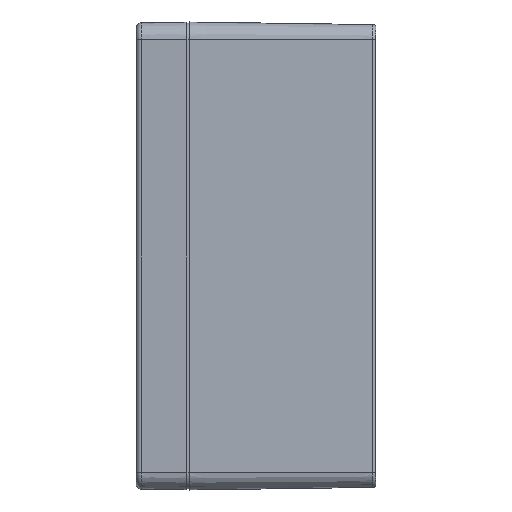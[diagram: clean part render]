
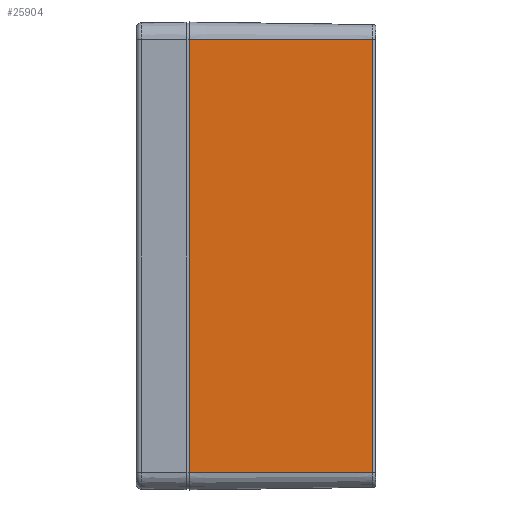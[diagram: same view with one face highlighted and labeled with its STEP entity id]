
A CAD part, left-side view. The second image highlights one B-rep face of the part: STEP entity #25904.
In plain terms, the highlighted planar face has unit normal (-1, -0.014, 0).
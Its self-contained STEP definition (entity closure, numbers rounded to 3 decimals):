
#1692 = DIRECTION ( 'NONE',  ( -0.014, 1., 0. ) ) ;
#4899 = CARTESIAN_POINT ( 'NONE',  ( -131.474, -73.467, 85.5 ) ) ;
#6523 = ORIENTED_EDGE ( 'NONE', *, *, #25195, .T. ) ;
#12423 = CARTESIAN_POINT ( 'NONE',  ( -132.5, 0., 85.5 ) ) ;
#13148 = CARTESIAN_POINT ( 'NONE',  ( -132.5, 0., -85.5 ) ) ;
#15148 = VECTOR ( 'NONE', #1692, 1000. ) ;
#16372 = LINE ( 'NONE', #26067, #15148 ) ;
#19604 = LINE ( 'NONE', #4899, #34631 ) ;
#20899 = CARTESIAN_POINT ( 'NONE',  ( -131.474, -73.467, -85.5 ) ) ;
#25195 = EDGE_CURVE ( 'NONE', #30143, #25568, #51648, .T. ) ;
#25568 = VERTEX_POINT ( 'NONE', #55354 ) ;
#25774 = CARTESIAN_POINT ( 'NONE',  ( -131.474, -73.467, 85.5 ) ) ;
#25904 = ADVANCED_FACE ( 'NONE', ( #36191 ), #55277, .T. ) ;
#26067 = CARTESIAN_POINT ( 'NONE',  ( -132.5, 0., 85.5 ) ) ;
#28037 = AXIS2_PLACEMENT_3D ( 'NONE', #12423, #31522, #36505 ) ;
#28894 = VECTOR ( 'NONE', #61319, 1000. ) ;
#28979 = DIRECTION ( 'NONE',  ( 0., 0., 1. ) ) ;
#30143 = VERTEX_POINT ( 'NONE', #50938 ) ;
#30705 = VERTEX_POINT ( 'NONE', #25774 ) ;
#30944 = EDGE_LOOP ( 'NONE', ( #49981, #6523, #45656, #46376 ) ) ;
#31127 = VECTOR ( 'NONE', #42285, 1000. ) ;
#31522 = DIRECTION ( 'NONE',  ( -1., -0.014, 0. ) ) ;
#34631 = VECTOR ( 'NONE', #28979, 1000. ) ;
#36191 = FACE_OUTER_BOUND ( 'NONE', #30944, .T. ) ;
#36505 = DIRECTION ( 'NONE',  ( 0.014, -1., 0. ) ) ;
#42285 = DIRECTION ( 'NONE',  ( 0., 0., -1. ) ) ;
#45620 = EDGE_CURVE ( 'NONE', #58642, #30705, #19604, .T. ) ;
#45656 = ORIENTED_EDGE ( 'NONE', *, *, #58826, .F. ) ;
#46376 = ORIENTED_EDGE ( 'NONE', *, *, #45620, .T. ) ;
#49981 = ORIENTED_EDGE ( 'NONE', *, *, #52878, .T. ) ;
#50938 = CARTESIAN_POINT ( 'NONE',  ( -132.486, -1., 85.5 ) ) ;
#51648 = LINE ( 'NONE', #60424, #31127 ) ;
#52878 = EDGE_CURVE ( 'NONE', #30705, #30143, #16372, .T. ) ;
#55277 = PLANE ( 'NONE',  #28037 ) ;
#55354 = CARTESIAN_POINT ( 'NONE',  ( -132.486, -1., -85.5 ) ) ;
#58642 = VERTEX_POINT ( 'NONE', #20899 ) ;
#58826 = EDGE_CURVE ( 'NONE', #58642, #25568, #60673, .T. ) ;
#60424 = CARTESIAN_POINT ( 'NONE',  ( -132.486, -1., 85.5 ) ) ;
#60673 = LINE ( 'NONE', #13148, #28894 ) ;
#61319 = DIRECTION ( 'NONE',  ( -0.014, 1., 0. ) ) ;
